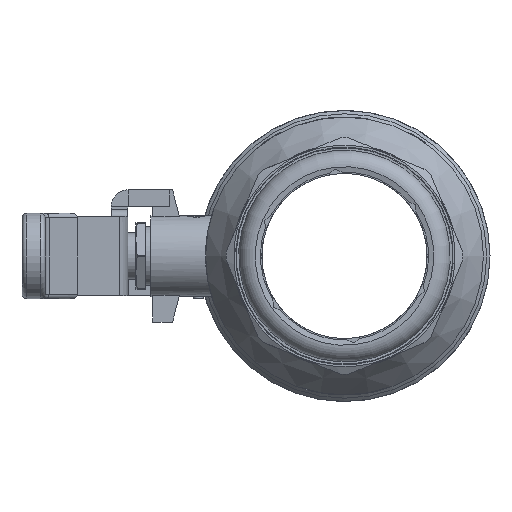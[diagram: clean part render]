
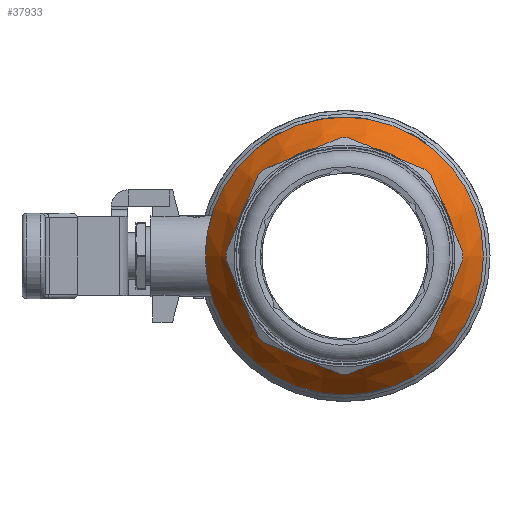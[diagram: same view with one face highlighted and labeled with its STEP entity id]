
A CAD part, left-side view. The second image highlights one B-rep face of the part: STEP entity #37933.
In plain terms, the highlighted conical face has half-angle 35 degrees and reference radius 41.1 mm.
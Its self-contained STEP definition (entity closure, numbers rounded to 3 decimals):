
#37902=CARTESIAN_POINT('',(-27.5,33.0,0.0));
#37903=VERTEX_POINT('',#37902);
#37904=CARTESIAN_POINT('',(-27.5,0.0,0.));
#37905=DIRECTION('',(1.0,0.0,0.0));
#37906=DIRECTION('',(0.0,1.0,0.0));
#37907=AXIS2_PLACEMENT_3D('',#37904,#37905,#37906);
#37908=CIRCLE('',#37907,33.0);
#37909=EDGE_CURVE('',#37903,#37903,#37908,.T.);
#37914=CARTESIAN_POINT('',(-15.932,0.0,0.));
#37915=DIRECTION('',(1.0,0.,0.));
#37916=DIRECTION('',(0.0,0.0,-1.0));
#37917=AXIS2_PLACEMENT_3D('',#37914,#37915,#37916);
#37918=CONICAL_SURFACE('',#37917,41.1,35.);
#37919=ORIENTED_EDGE('',*,*,#37909,.T.);
#37920=EDGE_LOOP('',(#37919));
#37921=FACE_OUTER_BOUND('',#37920,.T.);
#37922=CARTESIAN_POINT('',(-14.647,42.0,0.0));
#37923=VERTEX_POINT('',#37922);
#37924=CARTESIAN_POINT('',(-14.647,0.,0.));
#37925=DIRECTION('',(1.0,0.0,0.0));
#37926=DIRECTION('',(0.0,1.0,0.0));
#37927=AXIS2_PLACEMENT_3D('',#37924,#37925,#37926);
#37928=CIRCLE('',#37927,42.0);
#37929=EDGE_CURVE('',#37923,#37923,#37928,.T.);
#37930=ORIENTED_EDGE('',*,*,#37929,.F.);
#37931=EDGE_LOOP('',(#37930));
#37932=FACE_BOUND('',#37931,.T.);
#37933=ADVANCED_FACE('',(#37921,#37932),#37918,.T.);
